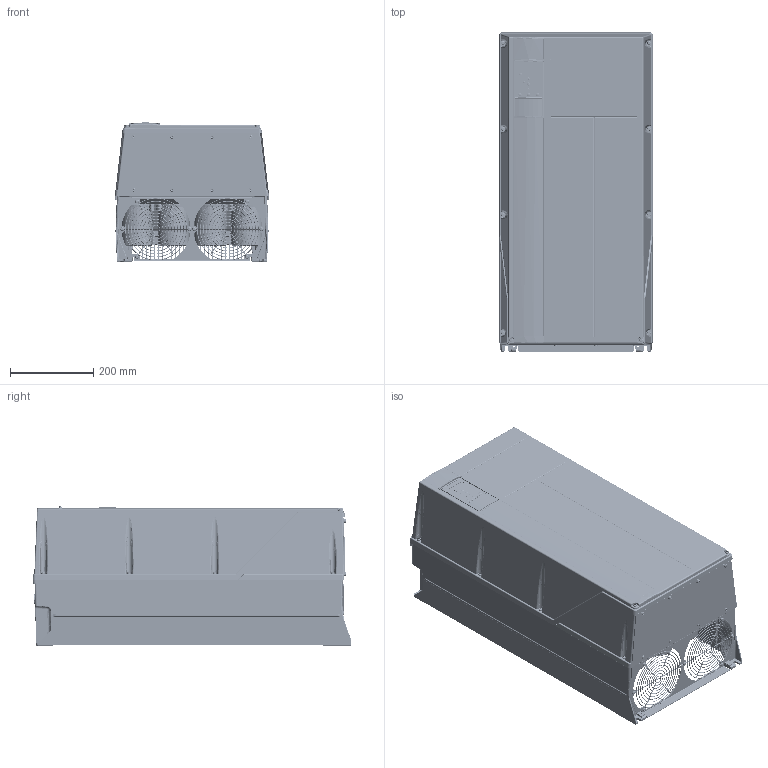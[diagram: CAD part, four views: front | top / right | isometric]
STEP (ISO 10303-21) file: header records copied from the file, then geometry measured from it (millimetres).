
FILE_DESCRIPTION (( 'STEP AP203' ), '1' );
FILE_NAME ('i8-ip54_0.STEP', '2016-01-18T14:38:38', ( '' ), ( '' ), 'SwSTEP 2.0', 'SolidWorks 2015', '' );
FILE_SCHEMA (( 'CONFIG_CONTROL_DESIGN' ));
Length unit declared in the file: millimetre
Products named in the file (1): i8-ip54_0
Bounding box: 371.37 x 767.48 x 335 mm (x, y, z)
Volume: 65800265.7 mm3; surface area: 4191339.3 mm2
Topology: 2 solids, 78 shells, 7017 faces, 18070 edges, 11109 vertices
Faces by surface type: cylinder 2598, plane 1883, bspline 1778, cone 758
Entity records: 401274 total; most frequent: CARTESIAN_POINT 258403, ORIENTED_EDGE 35702, DIRECTION 20693, EDGE_CURVE 17851, VERTEX_POINT 11109, B_SPLINE_CURVE_WITH_KNOTS 9098, AXIS2_PLACEMENT_3D 7484, EDGE_LOOP 7330
